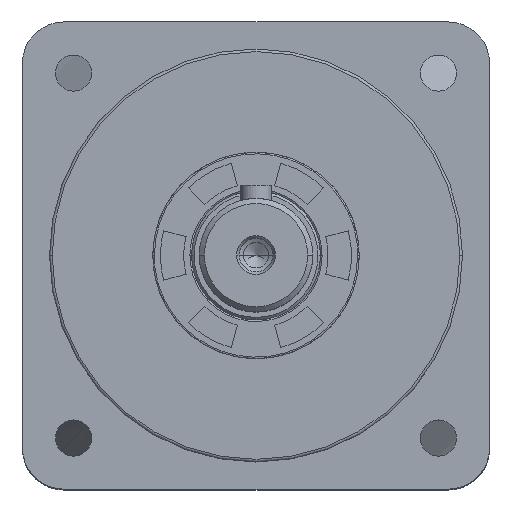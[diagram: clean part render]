
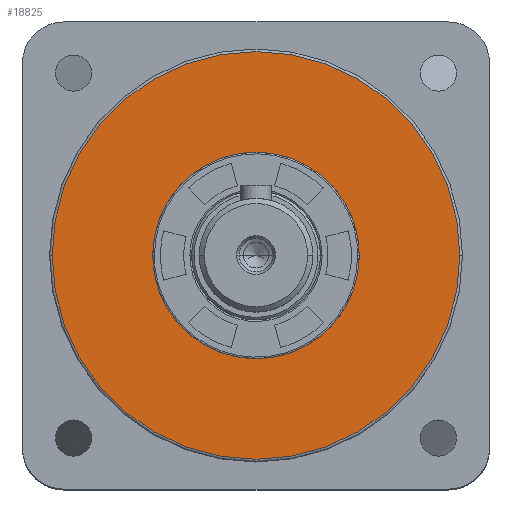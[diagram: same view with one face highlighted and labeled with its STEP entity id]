
A CAD part, top view. The second image highlights one B-rep face of the part: STEP entity #18825.
In plain terms, the highlighted planar face has unit normal (0, 0, 1).
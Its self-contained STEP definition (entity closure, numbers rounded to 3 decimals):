
#26 = CARTESIAN_POINT ( 'NONE',  ( 0., 0., 26.1 ) ) ;
#2564 = FACE_OUTER_BOUND ( 'NONE', #27920, .T. ) ;
#4900 = CARTESIAN_POINT ( 'NONE',  ( 0., 0., 26.1 ) ) ;
#5282 = CARTESIAN_POINT ( 'NONE',  ( 39.5, 0., 26.1 ) ) ;
#5696 = EDGE_CURVE ( 'NONE', #31769, #18166, #25836, .T. ) ;
#7358 = DIRECTION ( 'NONE',  ( 0., 0., 1. ) ) ;
#9248 = DIRECTION ( 'NONE',  ( 1., 0., 0. ) ) ;
#9262 = AXIS2_PLACEMENT_3D ( 'NONE', #13391, #25766, #11246 ) ;
#9492 = ORIENTED_EDGE ( 'NONE', *, *, #11099, .T. ) ;
#10203 = CARTESIAN_POINT ( 'NONE',  ( -20., 0., 26.1 ) ) ;
#10700 = CARTESIAN_POINT ( 'NONE',  ( 0., 0., 26.1 ) ) ;
#11099 = EDGE_CURVE ( 'NONE', #18166, #31769, #11382, .T. ) ;
#11246 = DIRECTION ( 'NONE',  ( 1., 0., 0. ) ) ;
#11382 = CIRCLE ( 'NONE', #9262, 39.5 ) ;
#11422 = CIRCLE ( 'NONE', #11905, 20. ) ;
#11905 = AXIS2_PLACEMENT_3D ( 'NONE', #4900, #7358, #22316 ) ;
#13348 = ORIENTED_EDGE ( 'NONE', *, *, #5696, .T. ) ;
#13391 = CARTESIAN_POINT ( 'NONE',  ( 0., 0., 26.1 ) ) ;
#13464 = AXIS2_PLACEMENT_3D ( 'NONE', #14066, #31159, #9248 ) ;
#14066 = CARTESIAN_POINT ( 'NONE',  ( 0., 0., 26.1 ) ) ;
#14573 = DIRECTION ( 'NONE',  ( 1., 0., 0. ) ) ;
#14678 = PLANE ( 'NONE',  #26266 ) ;
#16702 = ORIENTED_EDGE ( 'NONE', *, *, #22795, .F. ) ;
#18166 = VERTEX_POINT ( 'NONE', #20838 ) ;
#18825 = ADVANCED_FACE ( 'NONE', ( #2564, #19092 ), #14678, .T. ) ;
#19092 = FACE_BOUND ( 'NONE', #31016, .T. ) ;
#19815 = EDGE_CURVE ( 'NONE', #25549, #25507, #11422, .T. ) ;
#20838 = CARTESIAN_POINT ( 'NONE',  ( -39.5, 0., 26.1 ) ) ;
#22316 = DIRECTION ( 'NONE',  ( 1., 0., 0. ) ) ;
#22795 = EDGE_CURVE ( 'NONE', #25507, #25549, #24442, .T. ) ;
#23038 = ORIENTED_EDGE ( 'NONE', *, *, #19815, .F. ) ;
#24442 = CIRCLE ( 'NONE', #13464, 20. ) ;
#25507 = VERTEX_POINT ( 'NONE', #10203 ) ;
#25549 = VERTEX_POINT ( 'NONE', #29523 ) ;
#25766 = DIRECTION ( 'NONE',  ( 0., 0., 1. ) ) ;
#25836 = CIRCLE ( 'NONE', #28341, 39.5 ) ;
#26266 = AXIS2_PLACEMENT_3D ( 'NONE', #26, #26636, #14573 ) ;
#26636 = DIRECTION ( 'NONE',  ( 0., 0., 1. ) ) ;
#26961 = DIRECTION ( 'NONE',  ( 1., 0., 0. ) ) ;
#27920 = EDGE_LOOP ( 'NONE', ( #13348, #9492 ) ) ;
#28341 = AXIS2_PLACEMENT_3D ( 'NONE', #10700, #28610, #26961 ) ;
#28610 = DIRECTION ( 'NONE',  ( 0., 0., 1. ) ) ;
#29523 = CARTESIAN_POINT ( 'NONE',  ( 20., 0., 26.1 ) ) ;
#31016 = EDGE_LOOP ( 'NONE', ( #23038, #16702 ) ) ;
#31159 = DIRECTION ( 'NONE',  ( 0., 0., 1. ) ) ;
#31769 = VERTEX_POINT ( 'NONE', #5282 ) ;
